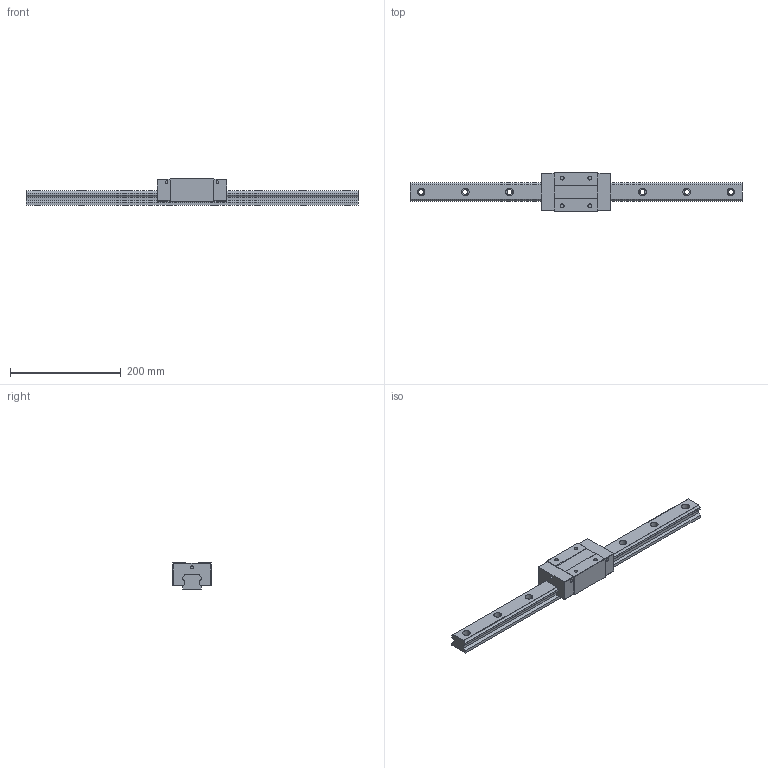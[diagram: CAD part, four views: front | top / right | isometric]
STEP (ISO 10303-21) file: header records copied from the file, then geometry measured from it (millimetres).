
FILE_DESCRIPTION (( 'STEP AP203' ), '1' );
FILE_NAME ('TRS35VN-DU.STEP', '2024-07-12T03:17:28', ( '' ), ( '' ), 'SwSTEP 2.0', 'SolidWorks 2022', '' );
FILE_SCHEMA (( 'CONFIG_CONTROL_DESIGN' ));
Length unit declared in the file: millimetre
Products named in the file (1): TRS35VN-DU
Bounding box: 600 x 70 x 48 mm (x, y, z)
Volume: 725194.8 mm3; surface area: 121196 mm2
Topology: 2 solids, 2 shells, 178 faces, 464 edges, 308 vertices
Faces by surface type: plane 90, cylinder 88
Entity records: 5619 total; most frequent: DIRECTION 998, CARTESIAN_POINT 951, ORIENTED_EDGE 928, EDGE_CURVE 464, AXIS2_PLACEMENT_3D 355, VERTEX_POINT 308, LINE 288, VECTOR 288
